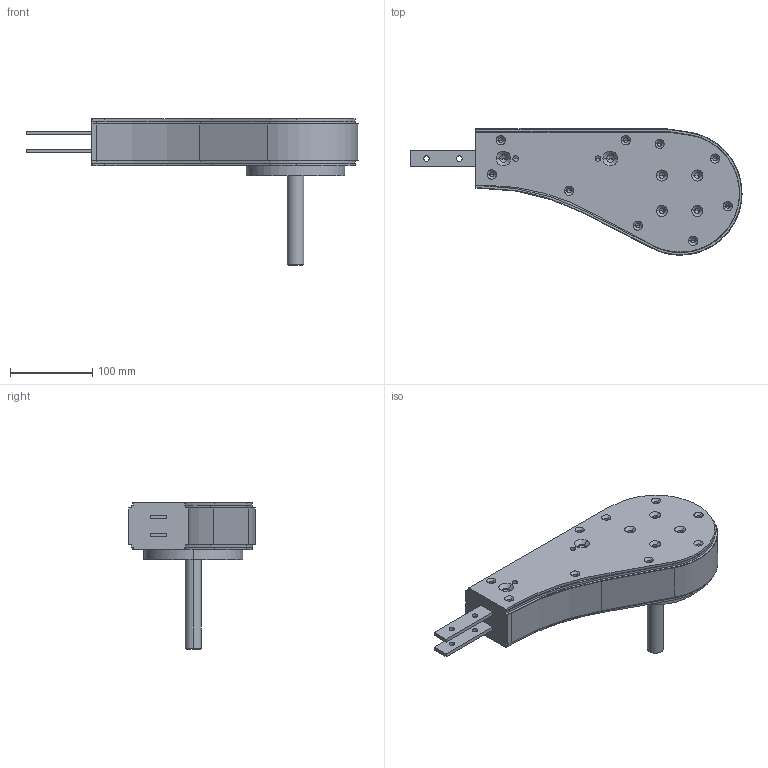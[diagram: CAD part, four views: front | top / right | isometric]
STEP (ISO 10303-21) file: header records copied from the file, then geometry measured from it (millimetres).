
FILE_DESCRIPTION (( 'STEP AP214' ), '1' );
FILE_NAME ('FKDD GP 0L.step', '2017-04-07T11:07:03', ( '' ), ( '' ), 'SwSTEP 2.0', 'SolidWorks 2016', '' );
FILE_SCHEMA (( 'AUTOMOTIVE_DESIGN' ));
Length unit declared in the file: millimetre
Products named in the file (1): FKDD GP 0L
Bounding box: 403.51 x 153.36 x 178.3 mm (x, y, z)
Volume: 2115488.6 mm3; surface area: 144944.1 mm2
Topology: 1 solids, 1 shells, 323 faces, 778 edges, 432 vertices
Faces by surface type: cone 138, cylinder 123, plane 54, bspline 8
Entity records: 10340 total; most frequent: DIRECTION 1664, CARTESIAN_POINT 1614, ORIENTED_EDGE 1420, EDGE_CURVE 710, AXIS2_PLACEMENT_3D 650, VERTEX_POINT 432, EDGE_LOOP 374, LINE 364
